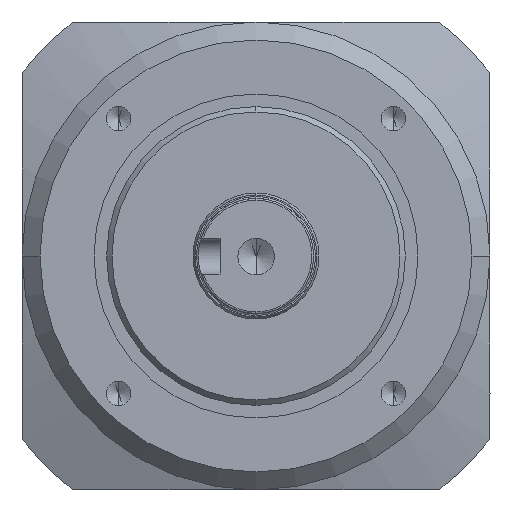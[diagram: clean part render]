
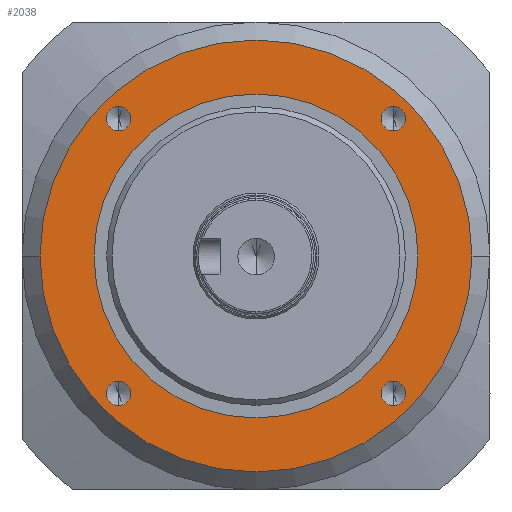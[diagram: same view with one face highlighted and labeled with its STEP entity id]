
A CAD part, left-side view. The second image highlights one B-rep face of the part: STEP entity #2038.
In plain terms, the highlighted planar face has unit normal (-1, 0, 0).
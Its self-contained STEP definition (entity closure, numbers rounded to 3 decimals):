
#1 = CARTESIAN_POINT ( 'NONE',  ( 44., -38.184, 41.584 ) ) ;
#39 = EDGE_CURVE ( 'NONE', #2258, #1557, #1235, .T. ) ;
#67 = EDGE_LOOP ( 'NONE', ( #2473, #939 ) ) ;
#129 = CARTESIAN_POINT ( 'NONE',  ( 44., 38.184, -38.184 ) ) ;
#145 = CIRCLE ( 'NONE', #2952, 3.4 ) ;
#158 = EDGE_LOOP ( 'NONE', ( #2285, #1332 ) ) ;
#162 = CARTESIAN_POINT ( 'NONE',  ( 44., -38.184, -41.584 ) ) ;
#247 = DIRECTION ( 'NONE',  ( -1., 0., 0. ) ) ;
#271 = CARTESIAN_POINT ( 'NONE',  ( 44., 38.184, 41.584 ) ) ;
#306 = ORIENTED_EDGE ( 'NONE', *, *, #1455, .F. ) ;
#317 = AXIS2_PLACEMENT_3D ( 'NONE', #2304, #2099, #1154 ) ;
#333 = DIRECTION ( 'NONE',  ( 0., 0., 1. ) ) ;
#342 = ORIENTED_EDGE ( 'NONE', *, *, #2083, .F. ) ;
#350 = FACE_BOUND ( 'NONE', #626, .T. ) ;
#445 = CARTESIAN_POINT ( 'NONE',  ( 44., -38.184, 38.184 ) ) ;
#447 = FACE_BOUND ( 'NONE', #2348, .T. ) ;
#451 = DIRECTION ( 'NONE',  ( 0., 0., 1. ) ) ;
#470 = CARTESIAN_POINT ( 'NONE',  ( 44., 0., -45. ) ) ;
#484 = DIRECTION ( 'NONE',  ( 0., 0., 1. ) ) ;
#497 = DIRECTION ( 'NONE',  ( -1., 0., 0. ) ) ;
#626 = EDGE_LOOP ( 'NONE', ( #1994, #2327 ) ) ;
#668 = CIRCLE ( 'NONE', #2181, 3.4 ) ;
#698 = ORIENTED_EDGE ( 'NONE', *, *, #1348, .F. ) ;
#708 = DIRECTION ( 'NONE',  ( -1., 0., 0. ) ) ;
#728 = DIRECTION ( 'NONE',  ( -1., 0., 0. ) ) ;
#730 = CARTESIAN_POINT ( 'NONE',  ( 44., 45., 0. ) ) ;
#735 = CARTESIAN_POINT ( 'NONE',  ( 44., 0., 45. ) ) ;
#879 = AXIS2_PLACEMENT_3D ( 'NONE', #1918, #2639, #2844 ) ;
#908 = DIRECTION ( 'NONE',  ( -1., 0., 0. ) ) ;
#939 = ORIENTED_EDGE ( 'NONE', *, *, #2623, .T. ) ;
#943 = DIRECTION ( 'NONE',  ( 0., 0., 1. ) ) ;
#944 = EDGE_CURVE ( 'NONE', #2043, #1813, #1593, .T. ) ;
#951 = CARTESIAN_POINT ( 'NONE',  ( 44., 38.184, 38.184 ) ) ;
#961 = CARTESIAN_POINT ( 'NONE',  ( 44., -38.184, 38.184 ) ) ;
#970 = DIRECTION ( 'NONE',  ( -1., 0., 0. ) ) ;
#978 = EDGE_CURVE ( 'NONE', #1714, #2620, #1524, .T. ) ;
#1028 = CIRCLE ( 'NONE', #2833, 60. ) ;
#1045 = AXIS2_PLACEMENT_3D ( 'NONE', #2155, #728, #2377 ) ;
#1053 = ORIENTED_EDGE ( 'NONE', *, *, #1409, .F. ) ;
#1070 = FACE_BOUND ( 'NONE', #2814, .T. ) ;
#1104 = EDGE_LOOP ( 'NONE', ( #2882, #1475 ) ) ;
#1154 = DIRECTION ( 'NONE',  ( 0., 0., 1. ) ) ;
#1201 = PLANE ( 'NONE',  #2167 ) ;
#1235 = CIRCLE ( 'NONE', #317, 3.4 ) ;
#1294 = AXIS2_PLACEMENT_3D ( 'NONE', #2172, #497, #2134 ) ;
#1323 = CARTESIAN_POINT ( 'NONE',  ( 44., 38.184, 34.784 ) ) ;
#1332 = ORIENTED_EDGE ( 'NONE', *, *, #39, .F. ) ;
#1343 = CIRCLE ( 'NONE', #2683, 45. ) ;
#1348 = EDGE_CURVE ( 'NONE', #2391, #2411, #668, .T. ) ;
#1397 = VERTEX_POINT ( 'NONE', #470 ) ;
#1409 = EDGE_CURVE ( 'NONE', #2411, #2391, #2685, .T. ) ;
#1425 = DIRECTION ( 'NONE',  ( 1., 0., 0. ) ) ;
#1432 = DIRECTION ( 'NONE',  ( 0., 0., -1. ) ) ;
#1455 = EDGE_CURVE ( 'NONE', #2774, #2962, #1617, .T. ) ;
#1475 = ORIENTED_EDGE ( 'NONE', *, *, #2186, .F. ) ;
#1481 = CARTESIAN_POINT ( 'NONE',  ( 44., -38.184, -34.784 ) ) ;
#1524 = CIRCLE ( 'NONE', #1045, 3.4 ) ;
#1557 = VERTEX_POINT ( 'NONE', #1481 ) ;
#1593 = CIRCLE ( 'NONE', #879, 60. ) ;
#1617 = CIRCLE ( 'NONE', #2713, 3.4 ) ;
#1622 = CARTESIAN_POINT ( 'NONE',  ( 44., 38.184, -41.584 ) ) ;
#1714 = VERTEX_POINT ( 'NONE', #2271 ) ;
#1801 = CIRCLE ( 'NONE', #1294, 3.4 ) ;
#1813 = VERTEX_POINT ( 'NONE', #2531 ) ;
#1833 = EDGE_CURVE ( 'NONE', #1397, #2795, #2489, .T. ) ;
#1855 = DIRECTION ( 'NONE',  ( -1., 0., 0. ) ) ;
#1872 = CARTESIAN_POINT ( 'NONE',  ( 44., 0., 0. ) ) ;
#1918 = CARTESIAN_POINT ( 'NONE',  ( 44., 0., 0. ) ) ;
#1941 = CARTESIAN_POINT ( 'NONE',  ( 44., 0., 60. ) ) ;
#1960 = DIRECTION ( 'NONE',  ( -1., 0., 0. ) ) ;
#1994 = ORIENTED_EDGE ( 'NONE', *, *, #2579, .F. ) ;
#2038 = ADVANCED_FACE ( 'NONE', ( #1070, #2709, #2307, #447, #350, #2239 ), #1201, .F. ) ;
#2043 = VERTEX_POINT ( 'NONE', #1941 ) ;
#2061 = AXIS2_PLACEMENT_3D ( 'NONE', #961, #2578, #2829 ) ;
#2083 = EDGE_CURVE ( 'NONE', #2962, #2774, #1801, .T. ) ;
#2099 = DIRECTION ( 'NONE',  ( -1., 0., 0. ) ) ;
#2115 = CARTESIAN_POINT ( 'NONE',  ( 44., 0., 0. ) ) ;
#2134 = DIRECTION ( 'NONE',  ( 0., 0., 1. ) ) ;
#2155 = CARTESIAN_POINT ( 'NONE',  ( 44., 38.184, -38.184 ) ) ;
#2167 = AXIS2_PLACEMENT_3D ( 'NONE', #730, #1425, #1432 ) ;
#2172 = CARTESIAN_POINT ( 'NONE',  ( 44., 38.184, 38.184 ) ) ;
#2181 = AXIS2_PLACEMENT_3D ( 'NONE', #445, #908, #2787 ) ;
#2186 = EDGE_CURVE ( 'NONE', #2620, #1714, #145, .T. ) ;
#2239 = FACE_OUTER_BOUND ( 'NONE', #67, .T. ) ;
#2258 = VERTEX_POINT ( 'NONE', #162 ) ;
#2271 = CARTESIAN_POINT ( 'NONE',  ( 44., 38.184, -34.784 ) ) ;
#2285 = ORIENTED_EDGE ( 'NONE', *, *, #2989, .F. ) ;
#2304 = CARTESIAN_POINT ( 'NONE',  ( 44., -38.184, -38.184 ) ) ;
#2307 = FACE_BOUND ( 'NONE', #1104, .T. ) ;
#2327 = ORIENTED_EDGE ( 'NONE', *, *, #1833, .F. ) ;
#2348 = EDGE_LOOP ( 'NONE', ( #306, #342 ) ) ;
#2377 = DIRECTION ( 'NONE',  ( 0., 0., 1. ) ) ;
#2391 = VERTEX_POINT ( 'NONE', #2558 ) ;
#2411 = VERTEX_POINT ( 'NONE', #1 ) ;
#2473 = ORIENTED_EDGE ( 'NONE', *, *, #944, .T. ) ;
#2489 = CIRCLE ( 'NONE', #2593, 45. ) ;
#2531 = CARTESIAN_POINT ( 'NONE',  ( 44., 0., -60. ) ) ;
#2558 = CARTESIAN_POINT ( 'NONE',  ( 44., -38.184, 34.784 ) ) ;
#2569 = DIRECTION ( 'NONE',  ( 0., 0., 1. ) ) ;
#2578 = DIRECTION ( 'NONE',  ( -1., 0., 0. ) ) ;
#2579 = EDGE_CURVE ( 'NONE', #2795, #1397, #1343, .T. ) ;
#2593 = AXIS2_PLACEMENT_3D ( 'NONE', #1872, #247, #2785 ) ;
#2620 = VERTEX_POINT ( 'NONE', #1622 ) ;
#2623 = EDGE_CURVE ( 'NONE', #1813, #2043, #1028, .T. ) ;
#2626 = AXIS2_PLACEMENT_3D ( 'NONE', #2792, #708, #943 ) ;
#2639 = DIRECTION ( 'NONE',  ( -1., 0., 0. ) ) ;
#2649 = CARTESIAN_POINT ( 'NONE',  ( 44., 0., 0. ) ) ;
#2683 = AXIS2_PLACEMENT_3D ( 'NONE', #2649, #2806, #451 ) ;
#2685 = CIRCLE ( 'NONE', #2061, 3.4 ) ;
#2709 = FACE_BOUND ( 'NONE', #158, .T. ) ;
#2713 = AXIS2_PLACEMENT_3D ( 'NONE', #951, #970, #2569 ) ;
#2774 = VERTEX_POINT ( 'NONE', #271 ) ;
#2785 = DIRECTION ( 'NONE',  ( 0., 0., 1. ) ) ;
#2787 = DIRECTION ( 'NONE',  ( 0., 0., 1. ) ) ;
#2792 = CARTESIAN_POINT ( 'NONE',  ( 44., -38.184, -38.184 ) ) ;
#2795 = VERTEX_POINT ( 'NONE', #735 ) ;
#2806 = DIRECTION ( 'NONE',  ( -1., 0., 0. ) ) ;
#2814 = EDGE_LOOP ( 'NONE', ( #1053, #698 ) ) ;
#2829 = DIRECTION ( 'NONE',  ( 0., 0., 1. ) ) ;
#2833 = AXIS2_PLACEMENT_3D ( 'NONE', #2115, #1855, #484 ) ;
#2844 = DIRECTION ( 'NONE',  ( 0., 0., 1. ) ) ;
#2882 = ORIENTED_EDGE ( 'NONE', *, *, #978, .F. ) ;
#2923 = CIRCLE ( 'NONE', #2626, 3.4 ) ;
#2952 = AXIS2_PLACEMENT_3D ( 'NONE', #129, #1960, #333 ) ;
#2962 = VERTEX_POINT ( 'NONE', #1323 ) ;
#2989 = EDGE_CURVE ( 'NONE', #1557, #2258, #2923, .T. ) ;
